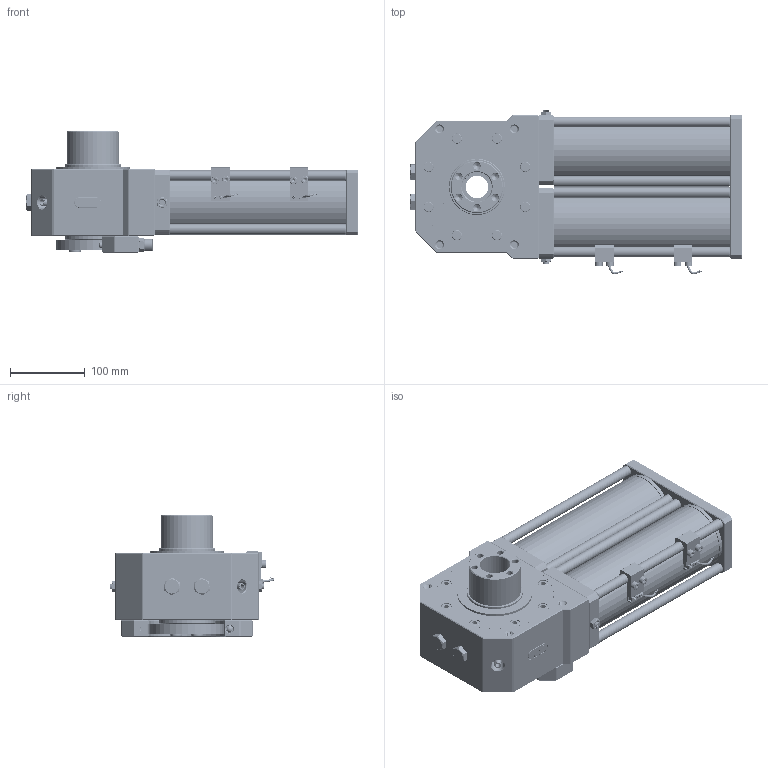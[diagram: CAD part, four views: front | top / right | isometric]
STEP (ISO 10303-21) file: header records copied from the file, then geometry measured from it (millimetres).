
FILE_DESCRIPTION((''),'2;1');
FILE_NAME('C:\Users\RND-KDY\Desktop\RJC\RJC80-180_190409.stp','2019-04-09T11:31:10',('RND-KDY'),(''),'Autodesk Inventor 2013','Autodesk Inventor 2013','');
FILE_SCHEMA(('AUTOMOTIVE_DESIGN { 1 0 10303 214 1 1 1 1 }'));
Length unit declared in the file: millimetre
Products named in the file (98): RJC80-180_L1102 (세부 수준1); Part1; Part2; Part3; Part4; Part5; Part6; Part7; Part8; Part9; Part10; Part11; Part12; Part13; Part19; Part20; Part22; Part28; Part29; Part31; Part34; Part39; Part41; Part42; Part45; Part46; Part48; Part54; Part56; Part57; Part59; Part60; Part61; Part62; Part63; Part64; Part65; Part66; Part67_1; Part68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
Assembly tree (102 placements, depth 5):
  RJC80-180_L1102 (세부 수준1)
    Part1
    Part2
    Part3
    Part4
    Part5
    Part6
    Part7
    Part8
    Part9
    Part10
    Part11
    Part12
    Part13
    Part19
    Part20
    Part22
    Part28
    Part29
    Part31
    Part34
    Part39
    Part41
    Part42
    Part45
    Part46
    Part48
    Part54
    Part56
    Part57
    Part59
    Part60
    Part61
    Part62
    Part63
    Part64
    Part65
    Part66
    Part67_1
    Part68
    j01n  x2
      조립품9
        어셈블리7_MIR
          HOUSING_MIR
          파트7_MIR
          Part51_MIR
          Part57_MIR
          Part57_1_MIR
          파트19_MIR
          3DM306_MIR
          파트30_MIR
        ISO 4762 M6 x 10  x2
        부품87
    부품122
    조립품5
      Part67
      1
      2
      3
      4
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Bounding box: 444 x 220.29 x 162 mm (x, y, z)
Volume: 6334634.4 mm3; surface area: 747451.1 mm2
Topology: 107 solids, 107 shells, 5993 faces, 15240 edges, 9747 vertices
Faces by surface type: plane 4452, cone 785, cylinder 684, torus 49, sphere 16, bspline 7
Full cylindrical faces by diameter (mm): 2.1 x2, 2.8 x2, 3 x5, 3.8 x10, 4.134 x24, 4.16 x16, 4.917 x4, 5 x24, 5.2 x4, 6 x5, 6.614 x20, 6.647 x1, 7 x1, 8 x26, 8.268 x172, 8.376 x10, 8.5 x16, 9 x2, 10 x188, 11 x6, 13 x2, 13.6 x16, 14 x24, 16 x6, 17 x11, 30 x1, 38 x1, 40 x2, 50 x4, 65 x4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
Entity records: 172178 total; most frequent: CARTESIAN_POINT 29651, DIRECTION 26747, ORIENTED_EDGE 26430, EDGE_CURVE 13215, VECTOR 11409, LINE 11409, VERTEX_POINT 9294, AXIS2_PLACEMENT_3D 7669
